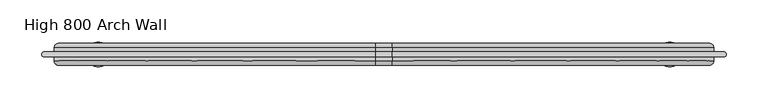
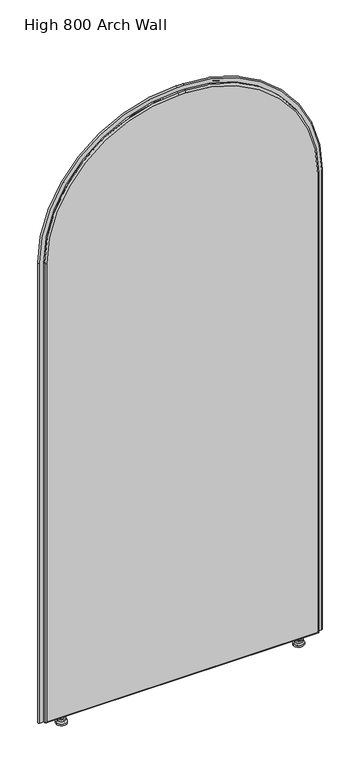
"""IFC4 building model written with IfcOpenShell, lengths in millimetres: furniture geometry, DBLTD_Sixteen3_PrivacyScreens_Artus_ArchRadius : High 800 Arch Wall."""

from ifc_helpers import new_model, si_unit, point, frame, origin, place, context, project, spatial, polyline, circle_curve, ellipse_curve, trimmed, source, transform, mapped, element, save
from ifc_brep_helpers import plane_surface, cylinder_surface, revolved_surface, advanced_brep


def high_800_arch_wall_f41f3d3d(model_context):
    return source(origin(), model_context, "Body", "AdvancedBrep", [
        advanced_brep(
        [(342.2938623, 820.0, 22.0), (349.2938623, 820.0, 22.0), (335.2938623, 820.0, 22.0), (349.2938623, 820.0, 15.0), (335.2938623, 820.0, 15.0), (353.744562, 820.0, 15.0), (330.8431626, 820.0, 15.0), (353.744562, 820.0, 10.0), (330.8431626, 820.0, 10.0), (357.2938623, 820.0, 5.0), (327.2938623, 820.0, 5.0), (357.2938623, 820.0, 0.0), (327.2938623, 820.0, 0.0), (342.2938623, 820.0, 0.0)],
        [
            (0, 1),
            (1, 2, circle_curve(frame((342.2938623, 820.0, 22.0), z_axis=(0.0, 0.0, 1.0), x_axis=(1.0, 0.0, 0.0)), 7.0)),
            (2, 0),
            (2, 1, circle_curve(frame((342.2938623, 820.0, 22.0), z_axis=(0.0, 0.0, 1.0), x_axis=(1.0, 0.0, 0.0)), 7.0)),
            (1, 3),
            (3, 4, circle_curve(frame((342.2938623, 820.0, 15.0), z_axis=(0.0, 0.0, 1.0), x_axis=(1.0, 0.0, 0.0)), 7.0)),
            (4, 2),
            (4, 3, circle_curve(frame((342.2938623, 820.0, 15.0), z_axis=(0.0, 0.0, 1.0), x_axis=(1.0, 0.0, 0.0)), 7.0)),
            (3, 5),
            (5, 6, circle_curve(frame((342.2938623, 820.0, 15.0), z_axis=(0.0, 0.0, 1.0), x_axis=(1.0, 0.0, 0.0)), 11.4506997)),
            (6, 4),
            (6, 5, circle_curve(frame((342.2938623, 820.0, 15.0), z_axis=(0.0, 0.0, 1.0), x_axis=(1.0, 0.0, 0.0)), 11.4506997)),
            (5, 7),
            (7, 8, circle_curve(frame((342.2938623, 820.0, 10.0), z_axis=(0.0, 0.0, 1.0), x_axis=(1.0, 0.0, 0.0)), 11.4506997)),
            (8, 6),
            (8, 7, circle_curve(frame((342.2938623, 820.0, 10.0), z_axis=(0.0, 0.0, 1.0), x_axis=(1.0, 0.0, 0.0)), 11.4506997)),
            (7, 9),
            (9, 10, circle_curve(frame((342.2938623, 820.0, 5.0), z_axis=(0.0, 0.0, 1.0), x_axis=(1.0, 0.0, 0.0)), 15.0)),
            (10, 8),
            (10, 9, circle_curve(frame((342.2938623, 820.0, 5.0), z_axis=(0.0, 0.0, 1.0), x_axis=(1.0, 0.0, 0.0)), 15.0)),
            (9, 11),
            (11, 12, circle_curve(frame((342.2938623, 820.0, 0.0), z_axis=(0.0, 0.0, 1.0), x_axis=(1.0, 0.0, 0.0)), 15.0)),
            (12, 10),
            (12, 11, circle_curve(frame((342.2938623, 820.0, 0.0), z_axis=(0.0, 0.0, 1.0), x_axis=(1.0, 0.0, 0.0)), 15.0)),
            (11, 13),
            (13, 12),
        ],
        [
            plane_surface(frame((342.2938623, 820.0, 22.0), z_axis=(0.0, 0.0, 1.0), x_axis=(1.0, 0.0, 0.0))),
            cylinder_surface(frame((342.2938623, 820.0, 5.0), z_axis=(0.0, 0.0, 1.0), x_axis=(1.0, 0.0, 0.0)), 7.0),
            plane_surface(frame((342.2938623, 820.0, 15.0), z_axis=(0.0, 0.0, 1.0), x_axis=(1.0, 0.0, 0.0))),
            cylinder_surface(frame((342.2938623, 820.0, 5.0), z_axis=(0.0, 0.0, 1.0), x_axis=(1.0, 0.0, 0.0)), 11.4506997),
            revolved_surface(polyline([(357.2938623, 820.0, 5.0), (353.744562, 820.0, 10.0)]), (342.2938623, 820.0, 5.0), (0.0, 0.0, 1.0)),
            cylinder_surface(frame((342.2938623, 820.0, 5.0), z_axis=(0.0, 0.0, 1.0), x_axis=(1.0, 0.0, 0.0)), 15.0),
            plane_surface(frame((342.2938623, 820.0, 0.0), z_axis=(0.0, 0.0, -1.0), x_axis=(1.0, 0.0, 0.0))),
        ],
        [
            (0, [[1, 2, 3]]),
            (0, [[-3, 4, -1]]),
            (1, [[-2, 5, 6, 7]]),
            (1, [[-4, -7, 8, -5]]),
            (2, [[-6, 9, 10, 11]]),
            (2, [[-8, -11, 12, -9]]),
            (3, [[-10, 13, 14, 15]]),
            (3, [[-12, -15, 16, -13]]),
            (4, [[-14, 17, 18, 19]]),
            (4, [[-16, -19, 20, -17]]),
            (5, [[-18, 21, 22, 23]]),
            (5, [[-20, -23, 24, -21]]),
            (6, [[-22, 25, 26]]),
            (6, [[-24, -26, -25]]),
        ],
    ),
        advanced_brep(
        [(-335.2938623, 820.0, 22.0), (-349.2938623, 820.0, 22.0), (-342.2938623, 820.0, 22.0), (-335.2938623, 820.0, 15.0), (-349.2938623, 820.0, 15.0), (-330.8431626, 820.0, 15.0), (-353.744562, 820.0, 15.0), (-330.8431626, 820.0, 10.0), (-353.744562, 820.0, 10.0), (-327.2938623, 820.0, 5.0), (-357.2938623, 820.0, 5.0), (-327.2938623, 820.0, 0.0), (-357.2938623, 820.0, 0.0), (-342.2938623, 820.0, 0.0)],
        [
            (0, 1, circle_curve(frame((-342.2938623, 820.0, 22.0), z_axis=(0.0, 0.0, 1.0), x_axis=(-1.0, 0.0, 0.0)), 7.0)),
            (1, 2),
            (2, 0),
            (1, 0, circle_curve(frame((-342.2938623, 820.0, 22.0), z_axis=(0.0, 0.0, 1.0), x_axis=(-1.0, 0.0, 0.0)), 7.0)),
            (3, 4, circle_curve(frame((-342.2938623, 820.0, 15.0), z_axis=(0.0, 0.0, 1.0), x_axis=(-1.0, 0.0, 0.0)), 7.0)),
            (4, 1),
            (0, 3),
            (4, 3, circle_curve(frame((-342.2938623, 820.0, 15.0), z_axis=(0.0, 0.0, 1.0), x_axis=(-1.0, 0.0, 0.0)), 7.0)),
            (5, 6, circle_curve(frame((-342.2938623, 820.0, 15.0), z_axis=(0.0, 0.0, 1.0), x_axis=(-1.0, 0.0, 0.0)), 11.4506997)),
            (6, 4),
            (3, 5),
            (6, 5, circle_curve(frame((-342.2938623, 820.0, 15.0), z_axis=(0.0, 0.0, 1.0), x_axis=(-1.0, 0.0, 0.0)), 11.4506997)),
            (7, 8, circle_curve(frame((-342.2938623, 820.0, 10.0), z_axis=(0.0, 0.0, 1.0), x_axis=(-1.0, 0.0, 0.0)), 11.4506997)),
            (8, 6),
            (5, 7),
            (8, 7, circle_curve(frame((-342.2938623, 820.0, 10.0), z_axis=(0.0, 0.0, 1.0), x_axis=(-1.0, 0.0, 0.0)), 11.4506997)),
            (9, 10, circle_curve(frame((-342.2938623, 820.0, 5.0), z_axis=(0.0, 0.0, 1.0), x_axis=(-1.0, 0.0, 0.0)), 15.0)),
            (10, 8),
            (7, 9),
            (10, 9, circle_curve(frame((-342.2938623, 820.0, 5.0), z_axis=(0.0, 0.0, 1.0), x_axis=(-1.0, 0.0, 0.0)), 15.0)),
            (11, 12, circle_curve(frame((-342.2938623, 820.0, 0.0), z_axis=(0.0, 0.0, 1.0), x_axis=(-1.0, 0.0, 0.0)), 15.0)),
            (12, 10),
            (9, 11),
            (12, 11, circle_curve(frame((-342.2938623, 820.0, 0.0), z_axis=(0.0, 0.0, 1.0), x_axis=(-1.0, 0.0, 0.0)), 15.0)),
            (13, 12),
            (11, 13),
        ],
        [
            plane_surface(frame((-342.2938623, 820.0, 22.0), z_axis=(0.0, 0.0, 1.0), x_axis=(-1.0, 0.0, 0.0))),
            cylinder_surface(frame((-342.2938623, 820.0, 5.0), z_axis=(0.0, 0.0, -1.0), x_axis=(-1.0, 0.0, 0.0)), 7.0),
            plane_surface(frame((-342.2938623, 820.0, 15.0), z_axis=(0.0, 0.0, 1.0), x_axis=(-1.0, 0.0, 0.0))),
            cylinder_surface(frame((-342.2938623, 820.0, 5.0), z_axis=(0.0, 0.0, -1.0), x_axis=(-1.0, 0.0, 0.0)), 11.4506997),
            revolved_surface(polyline([(-353.744562, 820.0, 10.0), (-357.2938623, 820.0, 5.0)]), (-342.2938623, 820.0, 5.0), (0.0, 0.0, -1.0)),
            cylinder_surface(frame((-342.2938623, 820.0, 5.0), z_axis=(0.0, 0.0, -1.0), x_axis=(-1.0, 0.0, 0.0)), 15.0),
            plane_surface(frame((-342.2938623, 820.0, 0.0), z_axis=(0.0, 0.0, -1.0), x_axis=(-1.0, 0.0, 0.0))),
        ],
        [
            (0, [[1, 2, 3]]),
            (0, [[4, -3, -2]]),
            (1, [[5, 6, -1, 7]]),
            (1, [[8, -7, -4, -6]]),
            (2, [[9, 10, -5, 11]]),
            (2, [[12, -11, -8, -10]]),
            (3, [[13, 14, -9, 15]]),
            (3, [[16, -15, -12, -14]]),
            (4, [[17, 18, -13, 19]]),
            (4, [[20, -19, -16, -18]]),
            (5, [[21, 22, -17, 23]]),
            (5, [[24, -23, -20, -22]]),
            (6, [[25, -21, 26]]),
            (6, [[-26, -24, -25]]),
        ],
    ),
        advanced_brep(
        [(-390.0, 807.0, 27.0), (390.0, 807.0, 27.0), (390.0, 807.0, 1425.0), (10.0, 807.0, 1805.0), (-10.0, 807.0, 1805.0), (-390.0, 807.0, 1425.0), (390.0, 833.0, 27.0), (-390.0, 833.0, 27.0), (-390.0, 833.0, 1425.0), (-10.0, 833.0, 1805.0), (10.0, 833.0, 1805.0), (390.0, 833.0, 1425.0), (10.0, 811.9999949, 1810.0), (10.0, 828.0, 1810.0), (-10.0, 828.0, 1810.0), (-10.0, 812.0, 1810.0), (-395.0, 828.0, 1425.0), (-395.0, 811.9999972, 1425.0), (-395.0, 828.0, 22.0), (-395.0, 812.0, 22.0), (395.0, 828.0, 22.0), (395.0, 812.0, 22.0), (395.0, 828.0, 1425.0), (395.0, 812.0, 1425.0)],
        [
            (0, 1),
            (1, 2),
            (2, 3, circle_curve(frame((10.0, 807.0, 1425.0), z_axis=(0.0, -1.0, 0.0), x_axis=(1.0, 0.0, 0.0)), 380.0)),
            (3, 4),
            (4, 5, circle_curve(frame((-10.0, 807.0, 1425.0), z_axis=(0.0, -1.0, 0.0), x_axis=(0.0, 0.0, 1.0)), 380.0)),
            (5, 0),
            (6, 7),
            (7, 8),
            (8, 9, circle_curve(frame((-10.0, 833.0, 1425.0), z_axis=(0.0, 1.0, 0.0), x_axis=(0.0, 0.0, 1.0)), 380.0)),
            (9, 10),
            (10, 11, circle_curve(frame((10.0, 833.0, 1425.0), z_axis=(0.0, 1.0, 0.0), x_axis=(1.0, 0.0, 0.0)), 380.0)),
            (11, 6),
            (12, 13),
            (13, 14),
            (14, 15),
            (15, 12),
            (14, 16, circle_curve(frame((-10.0, 828.0, 1425.0), z_axis=(0.0, -1.0, 0.0), x_axis=(1.0, 0.0, 0.0)), 385.0)),
            (16, 17),
            (17, 15, circle_curve(frame((-10.0, 812.0, 1425.0), z_axis=(0.0, 1.0, 0.0), x_axis=(1.0, 0.0, 0.0)), 385.0)),
            (16, 18),
            (18, 19),
            (19, 17),
            (18, 20),
            (20, 21),
            (21, 19),
            (20, 22),
            (22, 23),
            (23, 21),
            (12, 23, circle_curve(frame((10.0, 812.0, 1425.0), z_axis=(0.0, 1.0, 0.0), x_axis=(1.0, 0.0, 0.0)), 385.0)),
            (22, 13, circle_curve(frame((10.0, 828.0, 1425.0), z_axis=(0.0, -1.0, 0.0), x_axis=(1.0, 0.0, 0.0)), 385.0)),
            (21, 1, ellipse_curve(frame((390.0, 812.0, 27.0), z_axis=(-0.7071067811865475, 0.0, -0.7071067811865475), x_axis=(0.7071067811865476, 0.0, -0.7071067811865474)), 7.0710678, 5.0)),
            (0, 19, ellipse_curve(frame((-390.0, 812.0, 27.0), z_axis=(0.7071067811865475, 0.0, -0.7071067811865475), x_axis=(0.7071067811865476, 0.0, 0.7071067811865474)), 7.0710678, 5.0)),
            (6, 20, ellipse_curve(frame((390.0, 828.0, 27.0), z_axis=(-0.7071067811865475, 0.0, -0.7071067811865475), x_axis=(0.7071067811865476, 0.0, -0.7071067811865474)), 7.0710678, 5.0)),
            (18, 7, ellipse_curve(frame((-390.0, 828.0, 27.0), z_axis=(0.7071067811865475, 0.0, -0.7071067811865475), x_axis=(0.7071067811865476, 0.0, 0.7071067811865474)), 7.0710678, 5.0)),
            (23, 2, circle_curve(frame((390.0, 812.0, 1425.0), z_axis=(0.0, 0.0, -1.0), x_axis=(1.0, 0.0, 0.0)), 5.0)),
            (11, 22, circle_curve(frame((390.0, 828.0, 1425.0), z_axis=(0.0, 0.0, -1.0), x_axis=(1.0, 0.0, 0.0)), 5.0)),
            (12, 3, circle_curve(frame((10.0, 812.0, 1805.0), z_axis=(1.0, 0.0, 0.0), x_axis=(0.0, 0.0, 1.0)), 5.0)),
            (10, 13, circle_curve(frame((10.0, 828.0, 1805.0), z_axis=(1.0, 0.0, 0.0), x_axis=(0.0, 0.0, 1.0)), 5.0)),
            (15, 4, circle_curve(frame((-10.0, 812.0, 1805.0), z_axis=(1.0, 0.0, 0.0), x_axis=(0.0, 0.0, 1.0)), 5.0)),
            (9, 14, circle_curve(frame((-10.0, 828.0, 1805.0), z_axis=(1.0, 0.0, 0.0), x_axis=(0.0, 0.0, 1.0)), 5.0)),
            (17, 5, circle_curve(frame((-390.0, 812.0, 1425.0), z_axis=(0.0, 0.0, 1.0), x_axis=(-1.0, 0.0, 0.0)), 5.0)),
            (8, 16, circle_curve(frame((-390.0, 828.0, 1425.0), z_axis=(0.0, 0.0, 1.0), x_axis=(-1.0, 0.0, 0.0)), 5.0)),
        ],
        [
            plane_surface(frame((-10.0, 807.0, 1810.0), z_axis=(0.0, -1.0, 0.0), x_axis=(-1.0, 0.0, 0.0))),
            plane_surface(frame((-10.0, 833.0, 1810.0), z_axis=(0.0, 1.0, 0.0), x_axis=(1.0, 0.0, 0.0))),
            plane_surface(frame((10.0, 807.0, 1810.0), z_axis=(0.0, 0.0, 1.0), x_axis=(0.0, 1.0, 0.0))),
            cylinder_surface(frame((-10.0, 833.0, 1425.0), z_axis=(0.0, -1.0, 0.0), x_axis=(1.0, 0.0, 0.0)), 385.0),
            plane_surface(frame((-395.0, 807.0, 1425.0), z_axis=(-1.0, 0.0, 0.0), x_axis=(0.0, 1.0, 0.0))),
            plane_surface(frame((-395.0, 807.0, 22.0), z_axis=(0.0, 0.0, -1.0), x_axis=(0.0, 1.0, 0.0))),
            plane_surface(frame((395.0, 807.0, 22.0), z_axis=(1.0, 0.0, 0.0), x_axis=(0.0, 1.0, 0.0))),
            cylinder_surface(frame((10.0, 833.0, 1425.0), z_axis=(0.0, -1.0, 0.0), x_axis=(1.0, 0.0, 0.0)), 385.0),
            cylinder_surface(frame((-395.0, 812.0, 27.0), z_axis=(1.0, 0.0, 0.0), x_axis=(0.0, 0.0, -1.0)), 5.0),
            cylinder_surface(frame((-395.0, 828.0, 27.0), z_axis=(1.0, 0.0, 0.0), x_axis=(0.0, 0.0, -1.0)), 5.0),
            cylinder_surface(frame((390.0, 812.0, 22.0), z_axis=(0.0, 0.0, 1.0), x_axis=(1.0, 0.0, 0.0)), 5.0),
            cylinder_surface(frame((390.0, 828.0, 22.0), z_axis=(0.0, 0.0, 1.0), x_axis=(1.0, 0.0, 0.0)), 5.0),
            revolved_surface(trimmed(ellipse_curve(frame((390.0, 812.0, 1425.0), z_axis=(0.0, 0.0, -1.0), x_axis=(1.0, 0.0, 0.0)), 5.0, 5.0), [point((395.0, 812.0, 1425.0))], [point((390.0, 807.0, 1425.0))], True, "CARTESIAN"), (10.0, 807.0, 1425.0), (0.0, -1.0, 0.0)),
            revolved_surface(trimmed(ellipse_curve(frame((390.0, 828.0, 1425.0), z_axis=(0.0, 0.0, -1.0), x_axis=(1.0, 0.0, 0.0)), 5.0, 5.0), [point((390.0, 833.0, 1425.0))], [point((395.0, 828.0, 1425.0))], True, "CARTESIAN"), (10.0, 807.0, 1425.0), (0.0, -1.0, 0.0)),
            cylinder_surface(frame((10.0, 812.0, 1805.0), z_axis=(-1.0, 0.0, 0.0), x_axis=(0.0, 0.0, 1.0)), 5.0),
            cylinder_surface(frame((10.0, 828.0, 1805.0), z_axis=(-1.0, 0.0, 0.0), x_axis=(0.0, 0.0, 1.0)), 5.0),
            revolved_surface(trimmed(ellipse_curve(frame((-10.0, 812.0, 1805.0), z_axis=(1.0, 0.0, 0.0), x_axis=(0.0, 0.0, 1.0)), 5.0, 5.0), [point((-10.0, 812.0, 1810.0))], [point((-10.0, 807.0, 1805.0))], True, "CARTESIAN"), (-10.0, 807.0, 1425.0), (0.0, -1.0, 0.0)),
            revolved_surface(trimmed(ellipse_curve(frame((-10.0, 828.0, 1805.0), z_axis=(1.0, 0.0, 0.0), x_axis=(0.0, 0.0, 1.0)), 5.0, 5.0), [point((-10.0, 833.0, 1805.0))], [point((-10.0, 828.0, 1810.0))], True, "CARTESIAN"), (-10.0, 807.0, 1425.0), (0.0, -1.0, 0.0)),
            cylinder_surface(frame((-390.0, 812.0, 1425.0), z_axis=(0.0, 0.0, -1.0), x_axis=(-1.0, 0.0, 0.0)), 5.0),
            cylinder_surface(frame((-390.0, 828.0, 1425.0), z_axis=(0.0, 0.0, -1.0), x_axis=(-1.0, 0.0, 0.0)), 5.0),
        ],
        [
            (0, [[1, 2, 3, 4, 5, 6]]),
            (1, [[7, 8, 9, 10, 11, 12]]),
            (2, [[13, 14, 15, 16]]),
            (3, [[-15, 17, 18, 19]]),
            (4, [[-18, 20, 21, 22]]),
            (5, [[-21, 23, 24, 25]]),
            (6, [[-24, 26, 27, 28]]),
            (7, [[-13, 29, -27, 30]]),
            (8, [[31, -1, 32, -25]]),
            (9, [[33, -23, 34, -7]]),
            (10, [[-31, -28, 35, -2]]),
            (11, [[-33, -12, 36, -26]]),
            (12, [[-35, -29, 37, -3]]),
            (13, [[-36, -11, 38, -30]]),
            (14, [[-37, -16, 39, -4]]),
            (15, [[-38, -10, 40, -14]]),
            (16, [[-39, -19, 41, -5]]),
            (17, [[-40, -9, 42, -17]]),
            (18, [[-32, -6, -41, -22]]),
            (19, [[-34, -20, -42, -8]]),
        ],
    ),
        advanced_brep(
        [(406.9577057, 823.0, 22.0), (406.9577057, 817.0, 22.0), (395.0, 817.0, 22.0), (395.0, 823.0, 22.0), (406.9577057, 823.0, 1425.0), (406.9577057, 817.0, 1425.0), (10.0, 817.0, 1821.9577057), (-10.0, 817.0, 1821.9577057), (-406.9577057, 817.0, 1425.0), (-406.9577057, 817.0, 22.0), (-395.0, 817.0, 22.0), (-395.0, 817.0, 1425.0), (-10.0, 817.0, 1810.0), (10.0, 817.0, 1810.0), (395.0, 817.0, 1425.0), (395.0, 823.0, 1425.0), (10.0, 823.0, 1810.0), (-10.0, 823.0, 1810.0), (-395.0, 823.0, 1425.0), (-395.0, 823.0, 22.0), (-406.9577057, 823.0, 22.0), (-406.9577057, 823.0, 1425.0), (-10.0, 823.0, 1821.9577057), (10.0, 823.0, 1821.9577057)],
        [
            (0, 1, circle_curve(frame((406.9577057, 820.0, 22.0), z_axis=(0.0, 0.0, -1.0), x_axis=(1.0, 0.0, 0.0)), 3.0)),
            (1, 2),
            (2, 3),
            (3, 0),
            (0, 4),
            (4, 5, circle_curve(frame((406.9577057, 820.0, 1425.0), z_axis=(0.0, 0.0, -1.0), x_axis=(1.0, 0.0, 0.0)), 3.0)),
            (5, 1),
            (5, 6, circle_curve(frame((10.0, 817.0, 1425.0), z_axis=(0.0, -1.0, 0.0), x_axis=(1.0, 0.0, 0.0)), 396.9577057)),
            (6, 7),
            (7, 8, circle_curve(frame((-10.0, 817.0, 1425.0), z_axis=(0.0, -1.0, 0.0), x_axis=(0.0, 0.0, 1.0)), 396.9577057)),
            (8, 9),
            (9, 10),
            (10, 11),
            (11, 12, circle_curve(frame((-10.0, 817.0, 1425.0), z_axis=(0.0, 1.0, 0.0), x_axis=(0.0, 0.0, 1.0)), 385.0)),
            (12, 13),
            (13, 14, circle_curve(frame((10.0, 817.0, 1425.0), z_axis=(0.0, 1.0, 0.0), x_axis=(1.0, 0.0, 0.0)), 385.0)),
            (14, 2),
            (14, 15),
            (15, 3),
            (15, 16, circle_curve(frame((10.0, 823.0, 1425.0), z_axis=(0.0, -1.0, 0.0), x_axis=(1.0, 0.0, 0.0)), 385.0)),
            (16, 17),
            (17, 18, circle_curve(frame((-10.0, 823.0, 1425.0), z_axis=(0.0, -1.0, 0.0), x_axis=(0.0, 0.0, 1.0)), 385.0)),
            (18, 19),
            (19, 20),
            (20, 21),
            (21, 22, circle_curve(frame((-10.0, 823.0, 1425.0), z_axis=(0.0, 1.0, 0.0), x_axis=(0.0, 0.0, 1.0)), 396.9577057)),
            (22, 23),
            (23, 4, circle_curve(frame((10.0, 823.0, 1425.0), z_axis=(0.0, 1.0, 0.0), x_axis=(1.0, 0.0, 0.0)), 396.9577057)),
            (23, 6, circle_curve(frame((10.0, 820.0, 1821.9577057), z_axis=(1.0, 0.0, 0.0), x_axis=(0.0, 0.0, 1.0)), 3.0)),
            (13, 16),
            (22, 7, circle_curve(frame((-10.0, 820.0, 1821.9577057), z_axis=(1.0, 0.0, 0.0), x_axis=(0.0, 0.0, 1.0)), 3.0)),
            (12, 17),
            (21, 8, circle_curve(frame((-406.9577057, 820.0, 1425.0), z_axis=(0.0, 0.0, 1.0), x_axis=(-1.0, 0.0, 0.0)), 3.0)),
            (11, 18),
            (19, 10),
            (9, 20, circle_curve(frame((-406.9577057, 820.0, 22.0), z_axis=(0.0, 0.0, -1.0), x_axis=(-1.0, 0.0, 0.0)), 3.0)),
        ],
        [
            plane_surface(frame((395.0, 807.0, 22.0), z_axis=(0.0, 0.0, -1.0), x_axis=(1.0, 0.0, 0.0))),
            cylinder_surface(frame((406.9577057, 820.0, 22.0), z_axis=(0.0, 0.0, -1.0), x_axis=(1.0, 0.0, 0.0)), 3.0),
            plane_surface(frame((406.9577057, 817.0, 22.0), z_axis=(0.0, -1.0, 0.0), x_axis=(0.0, 0.0, 1.0))),
            plane_surface(frame((395.0, 817.0, 22.0), z_axis=(-1.0, 0.0, 0.0), x_axis=(0.0, 0.0, 1.0))),
            plane_surface(frame((395.0, 823.0, 22.0), z_axis=(0.0, 1.0, 0.0), x_axis=(0.0, 0.0, 1.0))),
            revolved_surface(trimmed(ellipse_curve(frame((406.9577057, 820.0, 1425.0), z_axis=(0.0, 0.0, -1.0), x_axis=(1.0, 0.0, 0.0)), 3.0, 3.0), [point((406.9577057, 823.0, 1425.0))], [point((406.9577057, 817.0, 1425.0))], True, "CARTESIAN"), (10.0, 807.0, 1425.0), (0.0, -1.0, 0.0)),
            revolved_surface(polyline([(395.0, 817.0, 1425.0), (395.0, 823.0, 1425.0)]), (10.0, 807.0, 1425.0), (0.0, -1.0, 0.0)),
            cylinder_surface(frame((10.0, 820.0, 1821.9577057), z_axis=(1.0, 0.0, 0.0), x_axis=(0.0, 0.0, 1.0)), 3.0),
            plane_surface(frame((10.0, 817.0, 1810.0), z_axis=(0.0, 0.0, -1.0), x_axis=(-1.0, 0.0, 0.0))),
            revolved_surface(trimmed(ellipse_curve(frame((-10.0, 820.0, 1821.9577057), z_axis=(1.0, 0.0, 0.0), x_axis=(0.0, 0.0, 1.0)), 3.0, 3.0), [point((-10.0, 823.0, 1821.9577057))], [point((-10.0, 817.0, 1821.9577057))], True, "CARTESIAN"), (-10.0, 807.0, 1425.0), (0.0, -1.0, 0.0)),
            revolved_surface(polyline([(-10.0, 817.0, 1810.0), (-10.0, 823.0, 1810.0)]), (-10.0, 807.0, 1425.0), (0.0, -1.0, 0.0)),
            plane_surface(frame((-395.0, 807.0, 22.0), z_axis=(0.0, 0.0, -1.0), x_axis=(-1.0, 0.0, 0.0))),
            cylinder_surface(frame((-406.9577057, 820.0, 1425.0), z_axis=(0.0, 0.0, 1.0), x_axis=(-1.0, 0.0, 0.0)), 3.0),
            plane_surface(frame((-395.0, 817.0, 1425.0), z_axis=(1.0, 0.0, 0.0), x_axis=(0.0, 0.0, -1.0))),
        ],
        [
            (0, [[1, 2, 3, 4]]),
            (1, [[-1, 5, 6, 7]]),
            (2, [[-2, -7, 8, 9, 10, 11, 12, 13, 14, 15, 16, 17]]),
            (3, [[-3, -17, 18, 19]]),
            (4, [[-4, -19, 20, 21, 22, 23, 24, 25, 26, 27, 28, -5]]),
            (5, [[-8, -6, -28, 29]]),
            (6, [[-20, -18, -16, 30]]),
            (7, [[-29, -27, 31, -9]]),
            (8, [[-30, -15, 32, -21]]),
            (9, [[-10, -31, -26, 33]]),
            (10, [[-22, -32, -14, 34]]),
            (11, [[-24, 35, -12, 36]]),
            (12, [[-33, -25, -36, -11]]),
            (13, [[-34, -13, -35, -23]]),
        ],
    ),
    ])


if __name__ == "__main__":
    model = new_model("IFC4")
    model_context = context("Model", 3, world=origin())
    ifc_project = project(units=[si_unit("LENGTHUNIT", "METRE", prefix="MILLI")], contexts=[model_context])
    site = spatial("IfcSite", under=ifc_project)
    building = spatial("IfcBuilding", under=site)
    placement = place(None, origin())
    high_800_arch_wall_shape = high_800_arch_wall_f41f3d3d(model_context)
    element("IfcFurniture", 1, ObjectType="DBLTD_Sixteen3_PrivacyScreens_Artus_ArchRadius : High 800 Arch Wall", at=placement, inside=building, context=model_context, shape_type="MappedRepresentation", body=[
        mapped(high_800_arch_wall_shape, transform((0.0, 0.0, 0.0), x_axis=(1.0, 0.0, 0.0), y_axis=(0.0, 1.0, 0.0), z_axis=(0.0, 0.0, 1.0))),
    ])
    save(model, "model.ifc")
